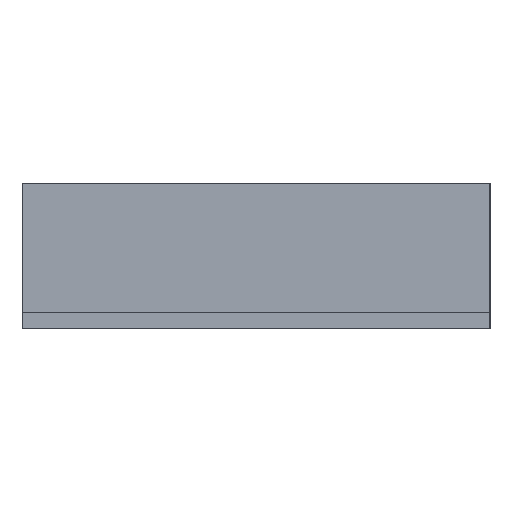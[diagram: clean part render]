
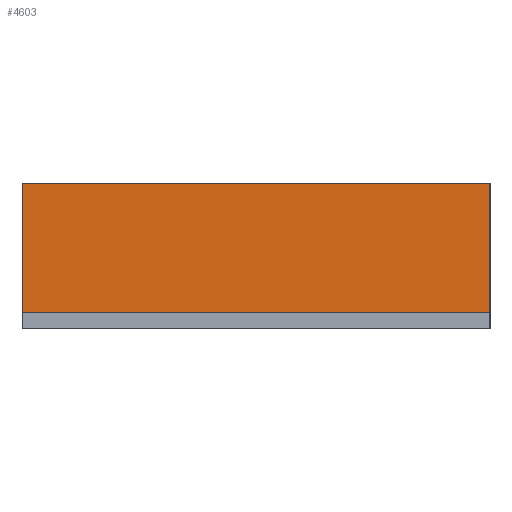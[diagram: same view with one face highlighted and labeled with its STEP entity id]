
A CAD part, left-side view. The second image highlights one B-rep face of the part: STEP entity #4603.
In plain terms, the highlighted planar face has unit normal (-1, 0, 0).
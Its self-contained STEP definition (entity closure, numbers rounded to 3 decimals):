
#1146 = ORIENTED_EDGE ( 'NONE', *, *, #7033, .T. ) ;
#1458 = VERTEX_POINT ( 'NONE', #7013 ) ;
#2371 = DIRECTION ( 'NONE',  ( 1., 0., 0. ) ) ;
#2386 = LINE ( 'NONE', #13369, #4296 ) ;
#2582 = VECTOR ( 'NONE', #2876, 1000. ) ;
#2876 = DIRECTION ( 'NONE',  ( 0., 0., -1. ) ) ;
#3085 = EDGE_CURVE ( 'NONE', #8267, #3358, #11396, .T. ) ;
#3358 = VERTEX_POINT ( 'NONE', #11549 ) ;
#3444 = FACE_OUTER_BOUND ( 'NONE', #9519, .T. ) ;
#3966 = CARTESIAN_POINT ( 'NONE',  ( -2.6, -1.9, 1.18 ) ) ;
#4296 = VECTOR ( 'NONE', #12249, 1000. ) ;
#4491 = ORIENTED_EDGE ( 'NONE', *, *, #6484, .T. ) ;
#4603 = ADVANCED_FACE ( 'NONE', ( #3444 ), #5993, .F. ) ;
#5133 = VECTOR ( 'NONE', #13083, 1000. ) ;
#5993 = PLANE ( 'NONE',  #14039 ) ;
#6484 = EDGE_CURVE ( 'NONE', #15278, #1458, #7325, .T. ) ;
#7013 = CARTESIAN_POINT ( 'NONE',  ( -2.6, 1.9, 0.13 ) ) ;
#7033 = EDGE_CURVE ( 'NONE', #1458, #3358, #13121, .T. ) ;
#7325 = LINE ( 'NONE', #10672, #5133 ) ;
#7399 = VECTOR ( 'NONE', #8247, 1000. ) ;
#7924 = CARTESIAN_POINT ( 'NONE',  ( -2.6, -1.9, 1.18 ) ) ;
#8247 = DIRECTION ( 'NONE',  ( 0., -1., 0. ) ) ;
#8267 = VERTEX_POINT ( 'NONE', #7924 ) ;
#9519 = EDGE_LOOP ( 'NONE', ( #1146, #12587, #10506, #4491 ) ) ;
#10506 = ORIENTED_EDGE ( 'NONE', *, *, #12591, .F. ) ;
#10672 = CARTESIAN_POINT ( 'NONE',  ( -2.6, 1.9, 1.18 ) ) ;
#11168 = CARTESIAN_POINT ( 'NONE',  ( -2.6, 1.9, 1.18 ) ) ;
#11396 = LINE ( 'NONE', #3966, #2582 ) ;
#11549 = CARTESIAN_POINT ( 'NONE',  ( -2.6, -1.9, 0.13 ) ) ;
#11908 = CARTESIAN_POINT ( 'NONE',  ( -2.6, 1.9, 1.18 ) ) ;
#11993 = DIRECTION ( 'NONE',  ( 0., 0., -1. ) ) ;
#12249 = DIRECTION ( 'NONE',  ( 0., -1., 0. ) ) ;
#12587 = ORIENTED_EDGE ( 'NONE', *, *, #3085, .F. ) ;
#12591 = EDGE_CURVE ( 'NONE', #15278, #8267, #2386, .T. ) ;
#13083 = DIRECTION ( 'NONE',  ( 0., 0., -1. ) ) ;
#13121 = LINE ( 'NONE', #14301, #7399 ) ;
#13369 = CARTESIAN_POINT ( 'NONE',  ( -2.6, 1.9, 1.18 ) ) ;
#14039 = AXIS2_PLACEMENT_3D ( 'NONE', #11908, #2371, #11993 ) ;
#14301 = CARTESIAN_POINT ( 'NONE',  ( -2.6, 1.9, 0.13 ) ) ;
#15278 = VERTEX_POINT ( 'NONE', #11168 ) ;
